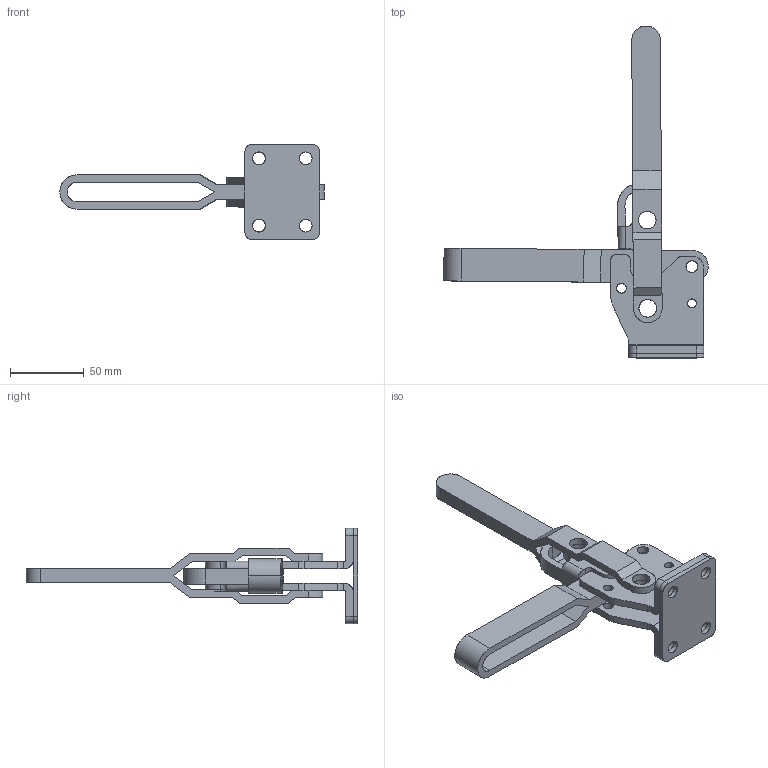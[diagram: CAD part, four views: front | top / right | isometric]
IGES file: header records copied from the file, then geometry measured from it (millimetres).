
Start section: Comment
Global section: file name: 10247.igs; native system:  By Spatial Corp.; preprocessor: XPlus PS/IGES 3.0; author: Author; organization: Title; date: 20050216.164001; units: inch
Bounding box: 179.75 x 225.64 x 64.7 mm (x, y, z)
Surface area: 68424.7 mm2 (no closed solid volume)
Topology: 0 solids, 0 shells, 194 faces, 1092 edges, 1092 vertices
Faces by surface type: revolution 107, extrusion 87
